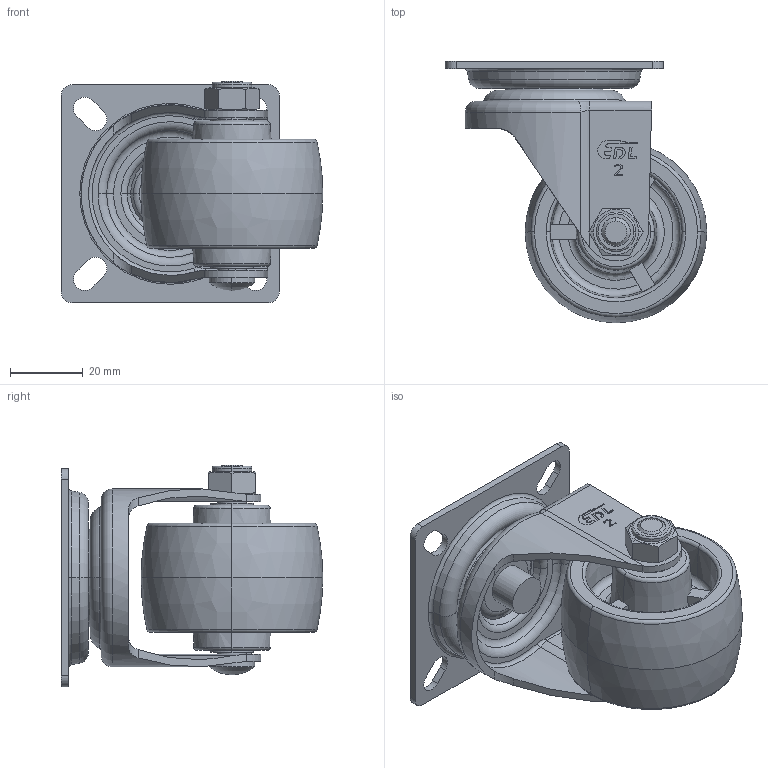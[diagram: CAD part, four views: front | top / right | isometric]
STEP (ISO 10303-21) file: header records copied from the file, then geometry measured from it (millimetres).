
FILE_DESCRIPTION((''),'2;1');
FILE_NAME('3112-04_ASM','2023-01-03T',('lenovo'),(''),'PRO/ENGINEER BY PARAMETRIC TECHNOLOGY CORPORATION, 2010280','PRO/ENGINEER BY PARAMETRIC TECHNOLOGY CORPORATION, 2010280','');
FILE_SCHEMA(('CONFIG_CONTROL_DESIGN'));
Length unit declared in the file: millimetre
Products named in the file (8): 310-11; 310-01; 310-31; 310-804; 550-54A; 540-33A; 310-34; 3112-04_ASM
Assembly tree (7 placements, depth 2):
  3112-04_ASM
    310-11
    310-01
    310-31
    310-804
    550-54A
    540-33A
    310-34
Bounding box: 72 x 72 x 61 mm (x, y, z)
Volume: 66502.7 mm3; surface area: 38344.6 mm2
Topology: 7 solids, 7 shells, 300 faces, 744 edges, 471 vertices
Faces by surface type: plane 135, cylinder 61, torus 56, cone 38, bspline 8, sphere 2
Entity records: 9896 total; most frequent: CARTESIAN_POINT 2494, DIRECTION 1572, ORIENTED_EDGE 1484, EDGE_CURVE 742, AXIS2_PLACEMENT_3D 611, VERTEX_POINT 471, VECTOR 350, LINE 350
